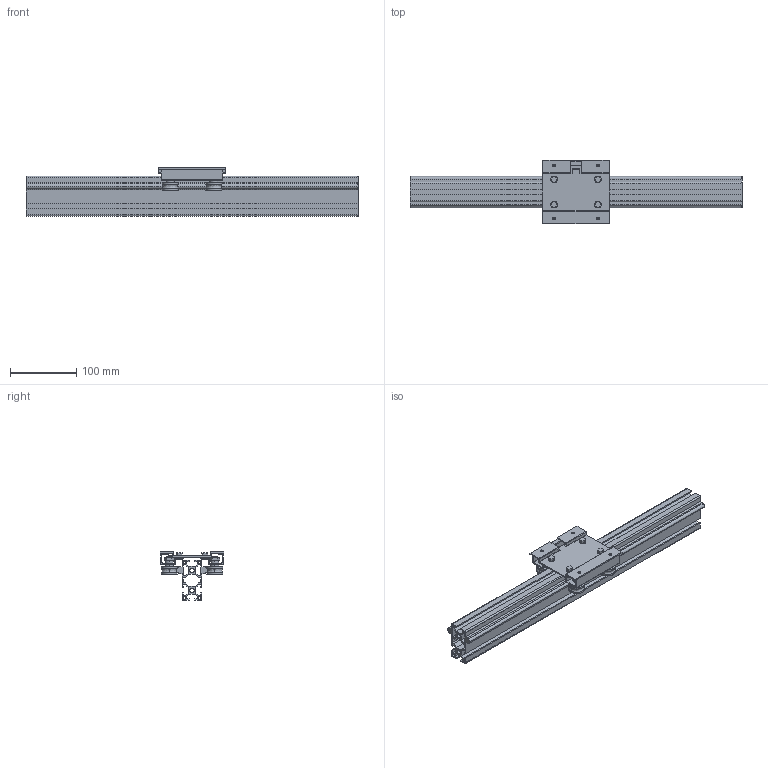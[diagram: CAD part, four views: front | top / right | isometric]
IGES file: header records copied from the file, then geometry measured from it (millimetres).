
Global section: file name: No Iges File Name specified; native system: AutoDesk Inventor R11.0; preprocessor: AutoDesk Inventor Iges Exporter R11.0; author: No Author specified; organization: No Organization specified; date: 20170802.093250; units: millimetre
Bounding box: 500 x 96 x 73 mm (x, y, z)
Surface area: 341878.9 mm2 (no closed solid volume)
Topology: 0 solids, 0 shells, 441 faces, 2674 edges, 2674 vertices
Faces by surface type: bspline 441
